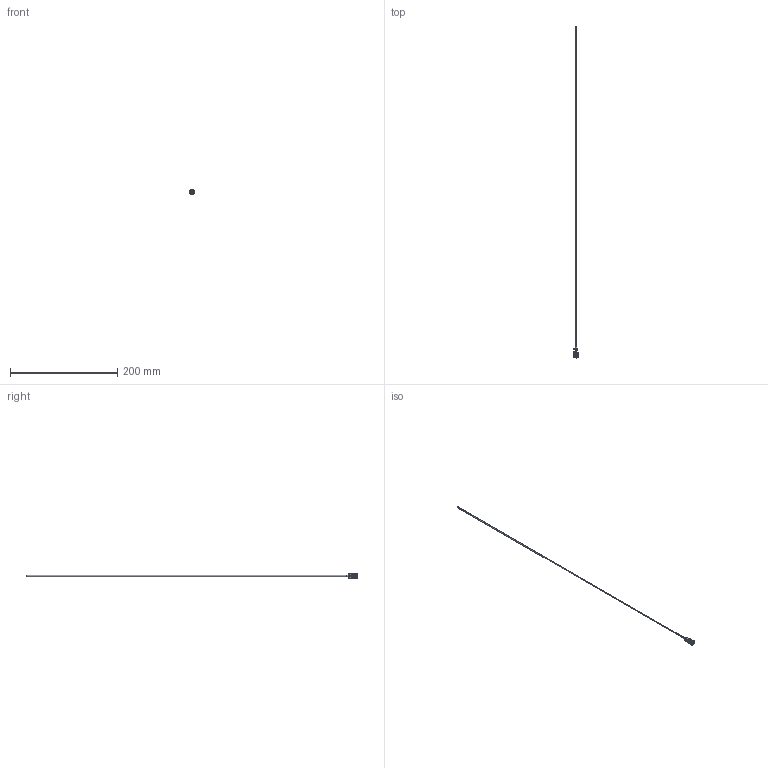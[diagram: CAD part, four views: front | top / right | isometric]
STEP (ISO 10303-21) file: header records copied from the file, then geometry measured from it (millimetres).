
FILE_DESCRIPTION (( 'STEP AP203' ), '1' );
FILE_NAME ('RF-8Fx600-2.STEP', '2015-11-25T08:46:56', ( 'Balzi' ), ( '' ), 'SwSTEP 2.0', 'SolidWorks 2015', '' );
FILE_SCHEMA (( 'CONFIG_CONTROL_DESIGN' ));
Length unit declared in the file: millimetre
Products named in the file (1): RF-8Fx600-2
Bounding box: 9 x 618 x 9 mm (x, y, z)
Volume: 1483.1 mm3; surface area: 7409.4 mm2
Topology: 1 solids, 1 shells, 77 faces, 176 edges, 108 vertices
Faces by surface type: cylinder 28, plane 25, torus 12, cone 12
Entity records: 2268 total; most frequent: DIRECTION 419, CARTESIAN_POINT 381, ORIENTED_EDGE 352, EDGE_CURVE 176, AXIS2_PLACEMENT_3D 170, VERTEX_POINT 108, CIRCLE 92, EDGE_LOOP 86
